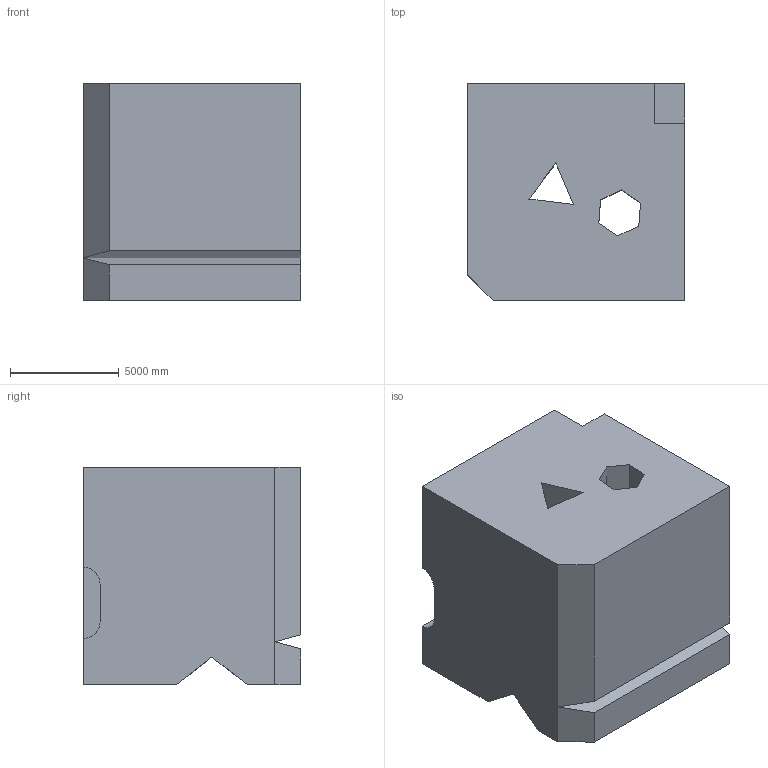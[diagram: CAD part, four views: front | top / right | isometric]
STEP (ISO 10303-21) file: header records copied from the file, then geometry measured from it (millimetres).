
FILE_DESCRIPTION (( 'STEP AP203' ), '1' );
FILE_NAME ('1844.STEP', '2022-08-19T13:27:45', ( 'user' ), ( '' ), 'SwSTEP 2.0', 'SolidWorks 2021', '' );
FILE_SCHEMA (( 'CONFIG_CONTROL_DESIGN' ));
Length unit declared in the file: centimetre
Products named in the file (1): 1844
Bounding box: 10000 x 10000 x 10000 mm (x, y, z)
Volume: 872980876857.4 mm3; surface area: 788322330.6 mm2
Topology: 1 solids, 1 shells, 41 faces, 120 edges, 80 vertices
Faces by surface type: plane 39, cylinder 2
Entity records: 1423 total; most frequent: CARTESIAN_POINT 242, ORIENTED_EDGE 240, DIRECTION 208, EDGE_CURVE 120, VECTOR 116, LINE 116, VERTEX_POINT 80, AXIS2_PLACEMENT_3D 46
